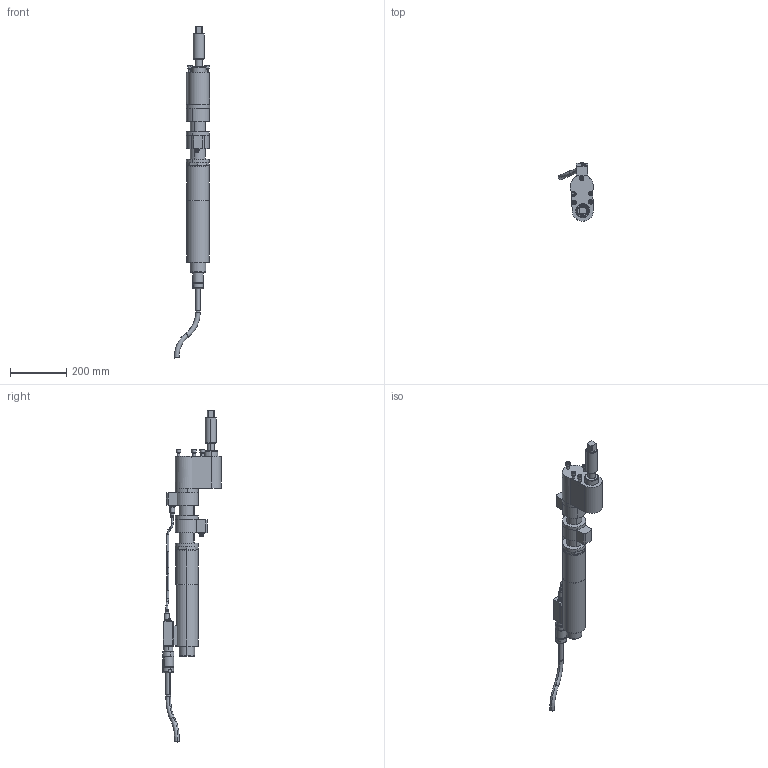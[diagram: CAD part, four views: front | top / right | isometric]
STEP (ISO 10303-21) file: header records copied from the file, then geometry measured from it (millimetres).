
FILE_DESCRIPTION(('CATIA V5 STEP'),'2;1');
FILE_NAME('O:\3D-Schrauber\stp\7920579_ECR326_DWR300_DR300_AO3325_AllCATPart.stp','2010-05-05T11:14:18+00:00',('none'),('none'),'CATIA Version 5 Release 19 SP 3 (IN-10)','CATIA V5 STEP AP214','none');
FILE_SCHEMA(('AUTOMOTIVE_DESIGN { 1 0 10303 214 1 1 1 1 }'));
Length unit declared in the file: millimetre
Products named in the file (1): 7920579_ECR326_DWR300_DR300_AO3325_AllCATPart
Bounding box: 125.3 x 209.91 x 1185.16 mm (x, y, z)
Volume: 4848346.5 mm3; surface area: 403778.3 mm2
Topology: 23 solids, 23 shells, 519 faces, 1127 edges, 712 vertices
Faces by surface type: plane 212, cylinder 191, cone 72, torus 44
Entity records: 13545 total; most frequent: CARTESIAN_POINT 2683, ORIENTED_EDGE 2254, DIRECTION 1869, EDGE_CURVE 1127, AXIS2_PLACEMENT_3D 961, VERTEX_POINT 712, EDGE_LOOP 577, CIRCLE 561
